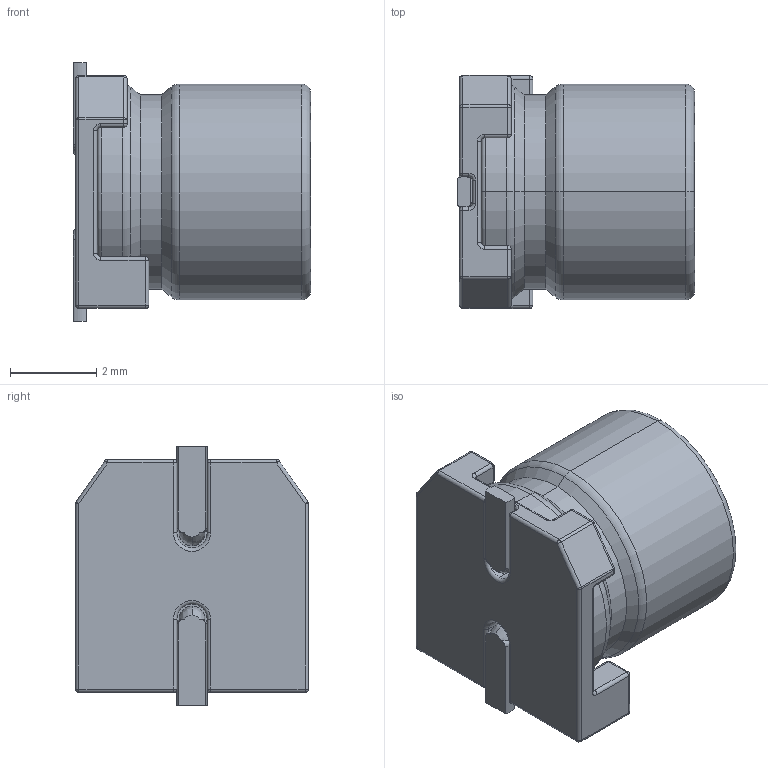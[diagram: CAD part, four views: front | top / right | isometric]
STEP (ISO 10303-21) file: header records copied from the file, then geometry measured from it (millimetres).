
FILE_DESCRIPTION((''),'2;1');
FILE_NAME('LIQUIDSMD5X55_ASM','2020-06-03T',('xy'),(''),'PRO/ENGINEER BY PARAMETRIC TECHNOLOGY CORPORATION, 2009380','PRO/ENGINEER BY PARAMETRIC TECHNOLOGY CORPORATION, 2009380','');
FILE_SCHEMA(('CONFIG_CONTROL_DESIGN'));
Length unit declared in the file: millimetre
Products named in the file (3): LIQUIDSMD5X55; ZB5A; LIQUIDSMD5X55_ASM
Assembly tree (2 placements, depth 2):
  LIQUIDSMD5X55_ASM
    LIQUIDSMD5X55
    ZB5A
Bounding box: 5.5 x 5.4 x 6 mm (x, y, z)
Volume: 110.7 mm3; surface area: 211.4 mm2
Topology: 2 solids, 2 shells, 368 faces, 884 edges, 528 vertices
Faces by surface type: plane 172, cylinder 99, torus 51, sphere 32, bspline 10, cone 4
Entity records: 11041 total; most frequent: CARTESIAN_POINT 2359, DIRECTION 1856, ORIENTED_EDGE 1760, EDGE_CURVE 880, AXIS2_PLACEMENT_3D 652, VECTOR 552, LINE 552, VERTEX_POINT 528
